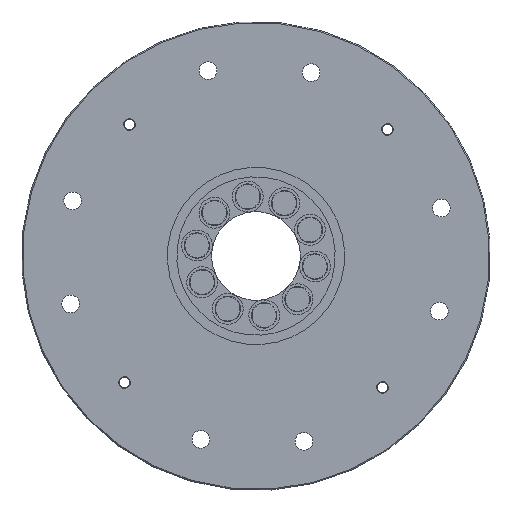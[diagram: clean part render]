
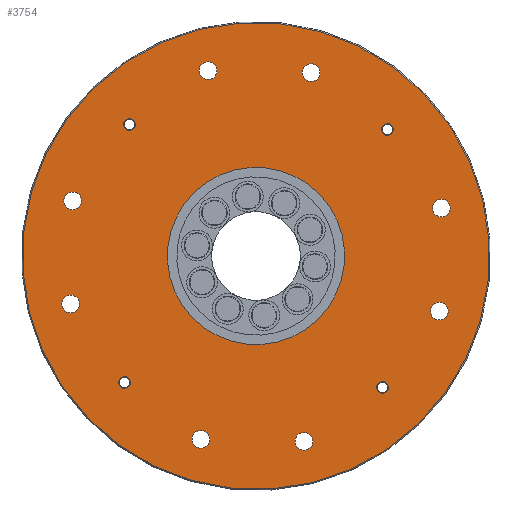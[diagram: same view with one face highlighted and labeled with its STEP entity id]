
A CAD part, front view. The second image highlights one B-rep face of the part: STEP entity #3754.
In plain terms, the highlighted planar face has unit normal (0, -1, 0).
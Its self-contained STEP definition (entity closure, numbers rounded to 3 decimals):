
#57=FACE_BOUND('',#1116,.T.);
#58=FACE_BOUND('',#1117,.T.);
#59=FACE_BOUND('',#1118,.T.);
#60=FACE_BOUND('',#1119,.T.);
#61=FACE_BOUND('',#1120,.T.);
#62=FACE_BOUND('',#1121,.T.);
#63=FACE_BOUND('',#1122,.T.);
#64=FACE_BOUND('',#1123,.T.);
#65=FACE_BOUND('',#1124,.T.);
#66=FACE_BOUND('',#1125,.T.);
#67=FACE_BOUND('',#1126,.T.);
#68=FACE_BOUND('',#1127,.T.);
#69=FACE_BOUND('',#1128,.T.);
#133=PLANE('',#4208);
#885=FACE_OUTER_BOUND('',#1115,.T.);
#1115=EDGE_LOOP('',(#2950));
#1116=EDGE_LOOP('',(#2951));
#1117=EDGE_LOOP('',(#2952));
#1118=EDGE_LOOP('',(#2953));
#1119=EDGE_LOOP('',(#2954));
#1120=EDGE_LOOP('',(#2955));
#1121=EDGE_LOOP('',(#2956));
#1122=EDGE_LOOP('',(#2957));
#1123=EDGE_LOOP('',(#2958));
#1124=EDGE_LOOP('',(#2959));
#1125=EDGE_LOOP('',(#2960));
#1126=EDGE_LOOP('',(#2961));
#1127=EDGE_LOOP('',(#2962));
#1128=EDGE_LOOP('',(#2963));
#1302=CIRCLE('',#3931,85.);
#1304=CIRCLE('',#3934,8.5);
#1306=CIRCLE('',#3937,8.5);
#1308=CIRCLE('',#3940,8.5);
#1310=CIRCLE('',#3943,8.5);
#1312=CIRCLE('',#3946,8.5);
#1314=CIRCLE('',#3949,8.5);
#1316=CIRCLE('',#3952,8.5);
#1318=CIRCLE('',#3955,8.5);
#1320=CIRCLE('',#3958,224.);
#1323=CIRCLE('',#3962,5.5);
#1325=CIRCLE('',#3965,5.5);
#1327=CIRCLE('',#3968,5.5);
#1329=CIRCLE('',#3971,5.5);
#1556=VERTEX_POINT('',#5670);
#1558=VERTEX_POINT('',#5676);
#1560=VERTEX_POINT('',#5682);
#1562=VERTEX_POINT('',#5688);
#1564=VERTEX_POINT('',#5694);
#1566=VERTEX_POINT('',#5700);
#1568=VERTEX_POINT('',#5706);
#1570=VERTEX_POINT('',#5712);
#1572=VERTEX_POINT('',#5718);
#1575=VERTEX_POINT('',#5725);
#1577=VERTEX_POINT('',#5732);
#1579=VERTEX_POINT('',#5738);
#1581=VERTEX_POINT('',#5744);
#1583=VERTEX_POINT('',#5750);
#1920=EDGE_CURVE('',#1556,#1556,#1302,.T.);
#1923=EDGE_CURVE('',#1558,#1558,#1304,.T.);
#1926=EDGE_CURVE('',#1560,#1560,#1306,.T.);
#1929=EDGE_CURVE('',#1562,#1562,#1308,.T.);
#1932=EDGE_CURVE('',#1564,#1564,#1310,.T.);
#1935=EDGE_CURVE('',#1566,#1566,#1312,.T.);
#1938=EDGE_CURVE('',#1568,#1568,#1314,.T.);
#1941=EDGE_CURVE('',#1570,#1570,#1316,.T.);
#1944=EDGE_CURVE('',#1572,#1572,#1318,.T.);
#1947=EDGE_CURVE('',#1575,#1575,#1320,.T.);
#1951=EDGE_CURVE('',#1577,#1577,#1323,.T.);
#1954=EDGE_CURVE('',#1579,#1579,#1325,.T.);
#1957=EDGE_CURVE('',#1581,#1581,#1327,.T.);
#1960=EDGE_CURVE('',#1583,#1583,#1329,.T.);
#2950=ORIENTED_EDGE('',*,*,#1947,.F.);
#2951=ORIENTED_EDGE('',*,*,#1951,.F.);
#2952=ORIENTED_EDGE('',*,*,#1954,.F.);
#2953=ORIENTED_EDGE('',*,*,#1957,.F.);
#2954=ORIENTED_EDGE('',*,*,#1960,.F.);
#2955=ORIENTED_EDGE('',*,*,#1923,.F.);
#2956=ORIENTED_EDGE('',*,*,#1926,.F.);
#2957=ORIENTED_EDGE('',*,*,#1929,.F.);
#2958=ORIENTED_EDGE('',*,*,#1932,.F.);
#2959=ORIENTED_EDGE('',*,*,#1920,.F.);
#2960=ORIENTED_EDGE('',*,*,#1935,.F.);
#2961=ORIENTED_EDGE('',*,*,#1938,.F.);
#2962=ORIENTED_EDGE('',*,*,#1941,.F.);
#2963=ORIENTED_EDGE('',*,*,#1944,.F.);
#3754=ADVANCED_FACE('',(#885,#57,#58,#59,#60,#61,#62,#63,#64,#65,#66,#67,
#68,#69),#133,.F.);
#3931=AXIS2_PLACEMENT_3D('',#5672,#4479,#4480);
#3934=AXIS2_PLACEMENT_3D('',#5678,#4486,#4487);
#3937=AXIS2_PLACEMENT_3D('',#5684,#4493,#4494);
#3940=AXIS2_PLACEMENT_3D('',#5690,#4500,#4501);
#3943=AXIS2_PLACEMENT_3D('',#5696,#4507,#4508);
#3946=AXIS2_PLACEMENT_3D('',#5702,#4514,#4515);
#3949=AXIS2_PLACEMENT_3D('',#5708,#4521,#4522);
#3952=AXIS2_PLACEMENT_3D('',#5714,#4528,#4529);
#3955=AXIS2_PLACEMENT_3D('',#5720,#4535,#4536);
#3958=AXIS2_PLACEMENT_3D('',#5727,#4542,#4543);
#3962=AXIS2_PLACEMENT_3D('',#5734,#4551,#4552);
#3965=AXIS2_PLACEMENT_3D('',#5740,#4558,#4559);
#3968=AXIS2_PLACEMENT_3D('',#5746,#4565,#4566);
#3971=AXIS2_PLACEMENT_3D('',#5752,#4572,#4573);
#4208=AXIS2_PLACEMENT_3D('',#6503,#5164,#5165);
#4479=DIRECTION('center_axis',(0.,-1.,0.));
#4480=DIRECTION('ref_axis',(0.693,0.,-0.721));
#4486=DIRECTION('center_axis',(0.,-1.,0.));
#4487=DIRECTION('ref_axis',(0.693,0.,-0.721));
#4493=DIRECTION('center_axis',(0.,-1.,0.));
#4494=DIRECTION('ref_axis',(0.693,0.,-0.721));
#4500=DIRECTION('center_axis',(0.,-1.,0.));
#4501=DIRECTION('ref_axis',(0.693,0.,-0.721));
#4507=DIRECTION('center_axis',(0.,-1.,0.));
#4508=DIRECTION('ref_axis',(0.693,0.,-0.721));
#4514=DIRECTION('center_axis',(0.,-1.,0.));
#4515=DIRECTION('ref_axis',(0.693,0.,-0.721));
#4521=DIRECTION('center_axis',(0.,-1.,0.));
#4522=DIRECTION('ref_axis',(0.693,0.,-0.721));
#4528=DIRECTION('center_axis',(0.,-1.,0.));
#4529=DIRECTION('ref_axis',(0.693,0.,-0.721));
#4535=DIRECTION('center_axis',(0.,-1.,0.));
#4536=DIRECTION('ref_axis',(0.693,0.,-0.721));
#4542=DIRECTION('center_axis',(0.,1.,0.));
#4543=DIRECTION('ref_axis',(-0.721,0.,-0.693));
#4551=DIRECTION('center_axis',(0.,-1.,0.));
#4552=DIRECTION('ref_axis',(0.693,0.,-0.721));
#4558=DIRECTION('center_axis',(0.,-1.,0.));
#4559=DIRECTION('ref_axis',(0.693,0.,-0.721));
#4565=DIRECTION('center_axis',(0.,-1.,0.));
#4566=DIRECTION('ref_axis',(0.693,0.,-0.721));
#4572=DIRECTION('center_axis',(0.,-1.,0.));
#4573=DIRECTION('ref_axis',(0.693,0.,-0.721));
#5164=DIRECTION('center_axis',(0.,1.,0.));
#5165=DIRECTION('ref_axis',(-0.693,0.,0.721));
#5670=CARTESIAN_POINT('',(1272.392,0.,-1322.211));
#5672=CARTESIAN_POINT('Origin',(1331.332,0.,
-1383.458));
#5676=CARTESIAN_POINT('',(1147.743,0.,-1423.428));
#5678=CARTESIAN_POINT('Origin',(1153.637,0.,
-1429.553));
#5682=CARTESIAN_POINT('',(1279.343,0.,-1199.639));
#5684=CARTESIAN_POINT('Origin',(1285.237,0.,
-1205.764));
#5688=CARTESIAN_POINT('',(1503.132,0.,-1331.239));
#5690=CARTESIAN_POINT('Origin',(1509.026,0.,
-1337.363));
#5694=CARTESIAN_POINT('',(1371.532,0.,-1555.028));
#5696=CARTESIAN_POINT('Origin',(1377.426,0.,
-1561.152));
#5700=CARTESIAN_POINT('',(1272.556,0.,-1553.127));
#5702=CARTESIAN_POINT('Origin',(1278.449,0.,
-1559.252));
#5706=CARTESIAN_POINT('',(1501.231,0.,-1430.215));
#5708=CARTESIAN_POINT('Origin',(1507.125,0.,-1436.34));
#5712=CARTESIAN_POINT('',(1378.32,0.,-1201.54));
#5714=CARTESIAN_POINT('Origin',(1384.214,0.,
-1207.664));
#5718=CARTESIAN_POINT('',(1149.644,0.,-1324.451));
#5720=CARTESIAN_POINT('Origin',(1155.538,0.,
-1330.576));
#5725=CARTESIAN_POINT('',(1492.735,0.,-1228.136));
#5727=CARTESIAN_POINT('Origin',(1331.332,0.,
-1383.458));
#5732=CARTESIAN_POINT('',(1448.863,0.,-1505.592));
#5734=CARTESIAN_POINT('Origin',(1452.677,0.,-1509.555));
#5738=CARTESIAN_POINT('',(1201.421,0.,-1500.84));
#5740=CARTESIAN_POINT('Origin',(1205.235,0.,
-1504.803));
#5744=CARTESIAN_POINT('',(1206.172,0.,-1253.399));
#5746=CARTESIAN_POINT('Origin',(1209.986,0.,
-1257.362));
#5750=CARTESIAN_POINT('',(1453.614,0.,-1258.15));
#5752=CARTESIAN_POINT('Origin',(1457.428,0.,
-1262.113));
#6503=CARTESIAN_POINT('Origin',(1331.332,0.,
-1383.458));
